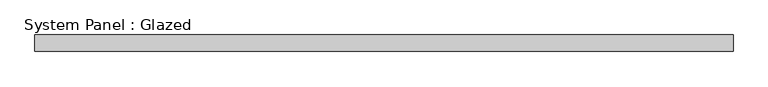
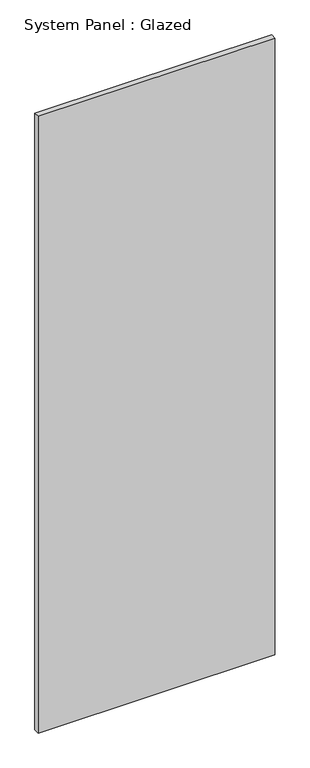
"""IFC4 building model written with IfcOpenShell, lengths in millimetres: plate geometry, System Panel : Glazed."""

import ifcopenshell
import ifcopenshell.guid

model = None  # the IFC model being written
_history = None  # IfcOwnerHistory: only IFC2X3 demands one
_inside = {}  # id of a spatial element -> (the spatial element, [elements in it])
_under = {}  # id of a project, library or spatial element -> (it, [spatial elements below it])
_declared = {}  # id of a project -> (the project, [libraries it declares])
_typed = {}  # id of a type object -> (the type object, [elements of that type])
_made_of = {}  # id of a material, layer set ... -> (it, [elements and type objects made of it])


def new_model(schema):
    """Start an empty IFC model of exactly this schema.

    Asked for "IFC4X3", IfcOpenShell would pick the latest addendum, in which some entities
    have other attributes; the version numbers below select the first issue.
    IFC2X3 requires an IfcOwnerHistory on every rooted entity: one is made here for all.
    """
    global model, _history
    if schema == "IFC4X3":
        model = ifcopenshell.file(schema_version=(4, 3, 0, 0))
    else:
        model = ifcopenshell.file(schema=schema)
    _inside.clear()
    _under.clear()
    _declared.clear()
    _typed.clear()
    _made_of.clear()
    _history = None
    if model.schema == "IFC2X3":
        org = make("IfcOrganization", Name="unknown")
        user = make(
            "IfcPersonAndOrganization",
            ThePerson=make("IfcPerson", FamilyName="unknown"),
            TheOrganization=org,
        )
        app = make(
            "IfcApplication",
            ApplicationDeveloper=org,
            Version="unknown",
            ApplicationFullName="unknown",
            ApplicationIdentifier="unknown",
        )
        _history = make(
            "IfcOwnerHistory",
            OwningUser=user,
            OwningApplication=app,
            ChangeAction="ADDED",
            CreationDate=0,
        )
    return model


def make(cls, **values):
    """One entity of the class cls with the attributes given. An attribute that is None is left unset."""
    return model.create_entity(
        cls, **{name: value for name, value in values.items() if value is not None}
    )


def rooted(cls, **values):
    """An entity with a GlobalId (a new one), such as an element, a storey or a relation."""
    return make(cls, GlobalId=ifcopenshell.guid.new(), OwnerHistory=_history, **values)


def si_unit(unit_type, name, prefix=None):
    """IfcSIUnit, for example si_unit("LENGTHUNIT", "METRE", prefix="MILLI")."""
    return make("IfcSIUnit", UnitType=unit_type, Prefix=prefix, Name=name)


def assignment(units):
    """IfcUnitAssignment: the units of a project."""
    return None if units is None else make("IfcUnitAssignment", Units=units)


def point(xyz):
    """IfcCartesianPoint."""
    return None if xyz is None else make("IfcCartesianPoint", Coordinates=xyz)


def direction(xyz):
    """IfcDirection."""
    return None if xyz is None else make("IfcDirection", DirectionRatios=xyz)


def frame(location, z_axis=None, x_axis=None):
    """IfcAxis2Placement3D, a coordinate frame: its origin and axes. An axis left out is left unset."""
    return make(
        "IfcAxis2Placement3D",
        Location=point(location),
        Axis=direction(z_axis),
        RefDirection=direction(x_axis),
    )


def origin():
    """The frame at (0, 0, 0) with its axes left unset."""
    return frame((0.0, 0.0, 0.0))


def origin_with_axes():
    """The frame at (0, 0, 0) with the z axis (0, 0, 1) and the x axis (1, 0, 0) written out."""
    return frame((0.0, 0.0, 0.0), z_axis=(0.0, 0.0, 1.0), x_axis=(1.0, 0.0, 0.0))


def place(relative_to, where):
    """IfcLocalPlacement: puts the frame where relative to a parent placement (None: the world)."""
    return make(
        "IfcLocalPlacement", PlacementRelTo=relative_to, RelativePlacement=where
    )


def context(
    kind, dimensions, precision=None, world=None, true_north=None, identifier=None
):
    """IfcGeometricRepresentationContext, for example the 3D "Model" context."""
    return make(
        "IfcGeometricRepresentationContext",
        ContextIdentifier=identifier,
        ContextType=kind,
        CoordinateSpaceDimension=dimensions,
        Precision=precision,
        WorldCoordinateSystem=world,
        TrueNorth=true_north,
    )


def project(units=None, contexts=None):
    """IfcProject with its units and contexts."""
    return rooted(
        "IfcProject",
        Name="project",
        RepresentationContexts=contexts,
        UnitsInContext=assignment(units),
    )


def spatial(cls, under=None, at=None, **own):
    """A site, building, storey or space (cls), placed at a placement, below another one or the project."""
    s = rooted(cls, ObjectPlacement=at, **own)
    if under is not None:
        _under.setdefault(under.id(), (under, []))[1].append(s)
    return s


def polyline(points):
    """IfcPolyline through the points."""
    return make("IfcPolyline", Points=[point(p) for p in points])


def outline(outer, holes=None, kind="AREA"):
    """IfcArbitraryClosedProfileDef: a profile drawn as a closed curve; with holes, ...WithVoids."""
    if holes is None:
        return make("IfcArbitraryClosedProfileDef", ProfileType=kind, OuterCurve=outer)
    return make(
        "IfcArbitraryProfileDefWithVoids",
        ProfileType=kind,
        OuterCurve=outer,
        InnerCurves=holes,
    )


def extrude(swept, where, along, depth):
    """IfcExtrudedAreaSolid: the profile swept, set in the frame where, extruded along a direction by depth."""
    return make(
        "IfcExtrudedAreaSolid",
        SweptArea=swept,
        Position=where,
        ExtrudedDirection=direction(along),
        Depth=depth,
    )


def shape(context_of_items, identifier, shape_type, items):
    """IfcShapeRepresentation: the items that make up one representation, for example the "Body"."""
    return make(
        "IfcShapeRepresentation",
        ContextOfItems=context_of_items,
        RepresentationIdentifier=identifier,
        RepresentationType=shape_type,
        Items=items,
    )


def source(mapping_origin, context_of_items, identifier, shape_type, items):
    """IfcRepresentationMap: a shape defined once, which mapped items show again and again."""
    return make(
        "IfcRepresentationMap",
        MappingOrigin=mapping_origin,
        MappedRepresentation=shape(context_of_items, identifier, shape_type, items),
    )


def transform(
    local_origin,
    x_axis=None,
    y_axis=None,
    z_axis=None,
    scale=None,
    scale2=None,
    scale3=None,
    uniform=True,
):
    """IfcCartesianTransformationOperator3D, or its non-uniform kind. x_axis, y_axis, z_axis: its Axis1, 2, 3."""
    if uniform:
        return make(
            "IfcCartesianTransformationOperator3D",
            Axis1=direction(x_axis),
            Axis2=direction(y_axis),
            LocalOrigin=point(local_origin),
            Scale=scale,
            Axis3=direction(z_axis),
        )
    return make(
        "IfcCartesianTransformationOperator3DnonUniform",
        Axis1=direction(x_axis),
        Axis2=direction(y_axis),
        LocalOrigin=point(local_origin),
        Scale=scale,
        Axis3=direction(z_axis),
        Scale2=scale2,
        Scale3=scale3,
    )


def mapped(mapping_source, mapping_target):
    """IfcMappedItem: shows the shape of a source again, moved by a transform."""
    return make(
        "IfcMappedItem", MappingSource=mapping_source, MappingTarget=mapping_target
    )


def made_of(thing, what):
    """Note that an element or type object is made of a material, layer set ...; save() writes the relation."""
    if what is not None:
        _made_of.setdefault(what.id(), (what, []))[1].append(thing)
    return thing


def element(
    cls,
    number,
    at=None,
    inside=None,
    cuts=None,
    type_object=None,
    material=None,
    context=None,
    identifier="Body",
    shape_type=None,
    held_by="IfcProductDefinitionShape",
    body=None,
    shapes=None,
    **own,
):
    """One element of the class cls, such as IfcWall. Its Tag is "e" and its number.

    at: its placement. inside: the storey or other place that contains it. cuts: it is an
    opening in that element (IfcRelVoidsElement). A single representation is given by context,
    identifier, shape_type and body (its items); several are given by shapes. held_by: the class
    of the entity that holds the representations. save() writes the other relations.
    """
    e = rooted(cls, Tag="e%d" % number, ObjectPlacement=at, **own)
    if body is not None:
        shapes = [shape(context, identifier, shape_type, body)]
    if shapes is not None:
        e.Representation = make(held_by, Representations=shapes)
    if inside is not None:
        _inside.setdefault(inside.id(), (inside, []))[1].append(e)
    if cuts is not None:
        rooted(
            "IfcRelVoidsElement", RelatingBuildingElement=cuts, RelatedOpeningElement=e
        )
    if type_object is not None:
        _typed.setdefault(type_object.id(), (type_object, []))[1].append(e)
    return made_of(e, material)


def aggregate(whole, parts):
    """IfcRelAggregates: a whole, such as a stair, and the parts it consists of."""
    return rooted("IfcRelAggregates", RelatingObject=whole, RelatedObjects=parts)


def save(model, path):
    """Write the relations noted so far, then the file.

    IfcRelAggregates (storeys below a building ...), IfcRelContainedInSpatialStructure (elements
    in a storey), IfcRelDefinesByType, IfcRelAssociatesMaterial and IfcRelDeclares: one each for
    every whole, place, type object, material and project.
    """
    for whole, parts in _under.values():
        aggregate(whole, parts)
    for where, things in _inside.values():
        rooted(
            "IfcRelContainedInSpatialStructure",
            RelatedElements=things,
            RelatingStructure=where,
        )
    for kind, things in _typed.values():
        rooted("IfcRelDefinesByType", RelatedObjects=things, RelatingType=kind)
    for what, things in _made_of.values():
        rooted("IfcRelAssociatesMaterial", RelatedObjects=things, RelatingMaterial=what)
    for by, libraries in _declared.values():
        rooted("IfcRelDeclares", RelatingContext=by, RelatedDefinitions=libraries)
    model.write(path)


def system_panel_glazed_e3f4a273(model_context):
    return source(origin(), model_context, "Body", "SweptSolid", [
        extrude(outline(polyline([(530.8333334, 24.5), (-530.8333334, 24.5), (-530.8333334, 49.5), (530.8333334, 49.5), (530.8333334, 24.5)])), origin_with_axes(), (0.0, 0.0, 1.0), 2925.0),
    ])


if __name__ == "__main__":
    model = new_model("IFC4")
    model_context = context("Model", 3, world=origin())
    ifc_project = project(units=[si_unit("LENGTHUNIT", "METRE", prefix="MILLI")], contexts=[model_context])
    site = spatial("IfcSite", under=ifc_project)
    building = spatial("IfcBuilding", under=site)
    placement = place(None, origin())
    system_panel_glazed_shape = system_panel_glazed_e3f4a273(model_context)
    element("IfcPlate", 1, ObjectType="System Panel : Glazed", at=placement, inside=building, context=model_context, shape_type="MappedRepresentation", body=[
        mapped(system_panel_glazed_shape, transform((0.0, 0.0, 0.0), x_axis=(1.0, 0.0, 0.0), y_axis=(0.0, 1.0, 0.0), z_axis=(0.0, 0.0, 1.0))),
    ])
    save(model, "model.ifc")
